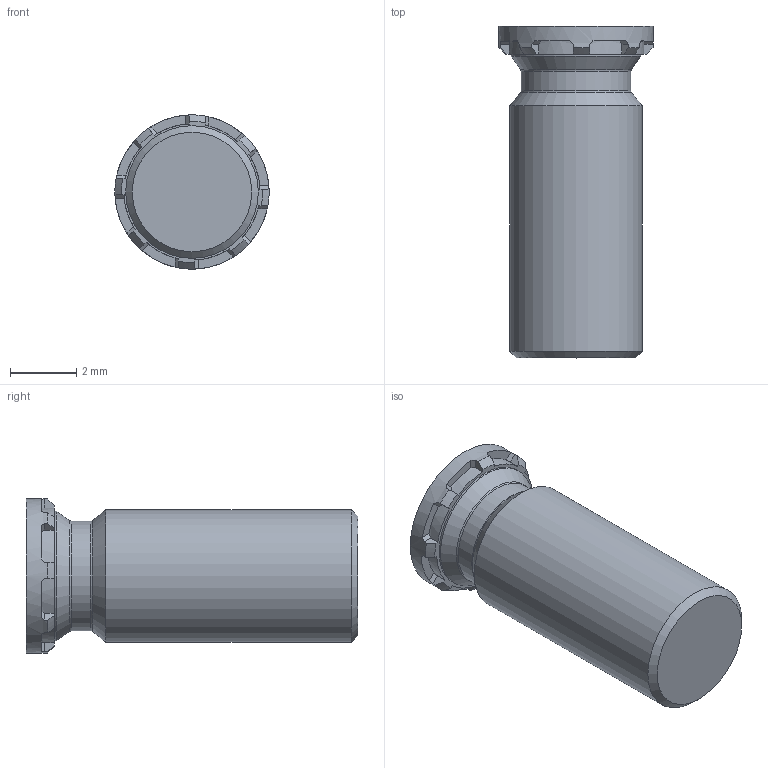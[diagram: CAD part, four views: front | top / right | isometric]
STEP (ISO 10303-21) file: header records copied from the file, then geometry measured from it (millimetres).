
FILE_DESCRIPTION(/* description */ (''),/* implementation_level */ '2;1');
FILE_NAME(/* name */ 'C:\Users\keval.kumar\Desktop\Fastit\Clinch Screw- Reduced FH Range\M4\Clinch Screw-Reduced FH Range_M4x10.stp',/* time_stamp */ '2024-03-12T13:54:07+05:00',/* author */ ('keval.kumar'),/* organization */ (''),/* preprocessor_version */ 'ST-DEVELOPER v18.1',/* originating_system */ 'Autodesk Inventor 2022',/* authorisation */ '');
FILE_SCHEMA (('AUTOMOTIVE_DESIGN { 1 0 10303 214 3 1 1 }'));
Length unit declared in the file: millimetre
Products named in the file (1): Clinch Screw-Reduced FH Range_M4x10
Bounding box: 4.65 x 10 x 4.65 mm (x, y, z)
Volume: 123.5 mm3; surface area: 160.5 mm2
Topology: 1 solids, 1 shells, 68 faces, 193 edges, 128 vertices
Faces by surface type: plane 43, cylinder 12, cone 11, torus 2
Full cylindrical faces by diameter (mm): 3.3 x1, 3.9 x1, 4 x1, 4.65 x1
Entity records: 2278 total; most frequent: CARTESIAN_POINT 422, DIRECTION 405, ORIENTED_EDGE 386, EDGE_CURVE 193, AXIS2_PLACEMENT_3D 159, VERTEX_POINT 128, LINE 87, VECTOR 87
